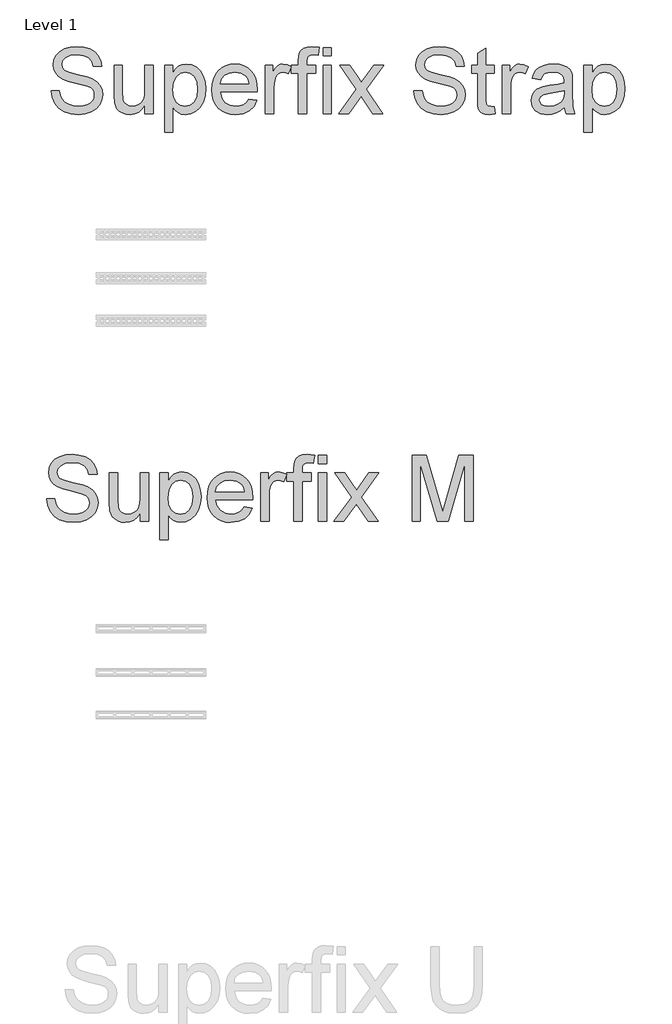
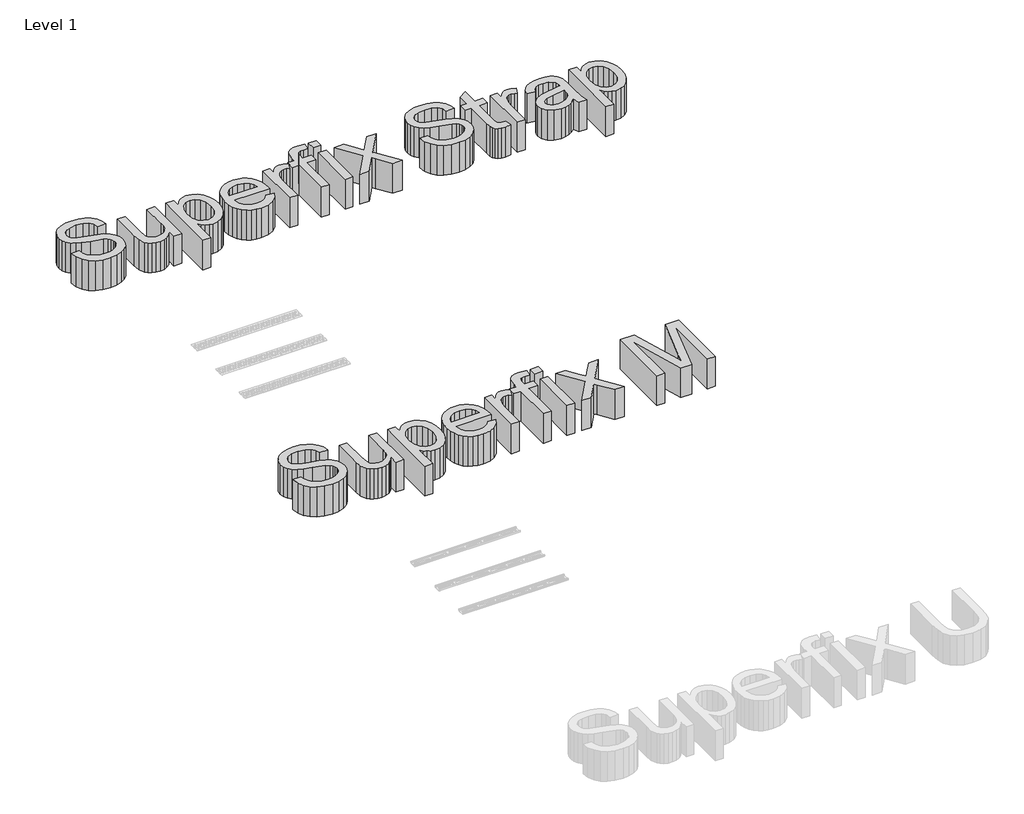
# One storey, part 26 of 32: 2 proxies.
"""IFC4 building model written with IfcOpenShell, lengths in millimetres."""

from ifc_helpers import new_model, si_unit, origin, origin_with_axes, place, context, project, spatial, polyline, outline, extrude, element, save

model = new_model("IFC4")

# Units and contexts
model_context = context("Model", 3, world=origin())
ifc_project = project(units=[si_unit("LENGTHUNIT", "METRE", prefix="MILLI")], contexts=[model_context])

# Site, building, storey
site = spatial("IfcSite", under=ifc_project)
building = spatial("IfcBuilding", under=site)
storey = spatial("IfcBuildingStorey", under=building, Name="Level 1", Elevation=0.0)

# Proxies
placement = place(None, origin())
element("IfcBuildingElementProxy", 1, Name="300mm Arial 2", ObjectType="300mm Arial 2", at=placement, inside=storey, context=model_context, shape_type="SweptSolid", body=[
    extrude(outline(polyline([(-40516.4132217, 29197.4580149), (-40478.7421054, 29197.4580149), (-40474.419492, 29176.5531205), (-40466.6019996, 29159.7501104), (-40454.4067115, 29146.414388), (-40436.9507108, 29135.9113571), (-40415.6135551, 29129.0963431), (-40391.7748018, 29126.8246718), (-40370.787134, 29128.5445201), (-40352.4114283, 29133.7040651), (-40337.5214045, 29141.8710454), (-40326.9907824, 29152.6131997), (-40320.7275915, 29164.9464436), (-40318.6398611, 29177.8866927), (-40320.2033596, 29190.4958481), (-40324.8938551, 29201.3943522), (-40334.4219987, 29210.6925697), (-40350.4984419, 29218.500865), (-40405.3496474, 29232.885051), (-40441.3560977, 29242.4039976), (-40464.3947076, 29251.4630918), (-40483.1474923, 29264.1366265), (-40496.4372294, 29279.4956998), (-40504.3558894, 29297.2092179), (-40506.9954427, 29316.9460869), (-40503.73049, 29339.0098096), (-40493.9356318, 29359.5836102), (-40477.8683857, 29377.0212167), (-40455.7862689, 29389.6763574), (-40429.2803712, 29397.3742881), (-40399.9417821, 29399.940265), (-40368.1567777, 29397.2547265), (-40340.3448989, 29389.1981108), (-40317.499427, 29375.9359648), (-40300.6136434, 29357.6338356), (-40289.9266714, 29335.4321572), (-40285.6776344, 29310.4713638), (-40323.3487507, 29310.4713638), (-40330.2649322, 29332.9489537), (-40344.6859064, 29349.1725497), (-40367.2186786, 29358.994999), (-40398.4702541, 29362.2691487), (-40430.4575936, 29359.0317872), (-40452.4017546, 29349.3197025), (-40465.0936834, 29335.027487), (-40469.3243264, 29318.0497329), (-40466.3260881, 29303.5735764), (-40457.3313733, 29291.9301112), (-40436.067794, 29281.5190508), (-40395.8215037, 29270.8872611), (-40354.2876265, 29260.7889003), (-40329.1612862, 29251.9781266), (-40307.6861747, 29238.3113104), (-40292.7041805, 29221.443921), (-40283.9026037, 29201.5598991), (-40280.9687448, 29178.8431859), (-40284.3440621, 29155.620635), (-40294.4700141, 29133.7776415), (-40310.9327333, 29114.9788716), (-40333.3183527, 29100.8889911), (-40360.2381177, 29092.0874144), (-40390.3032738, 29089.1535555), (-40427.211035, 29092.3173407), (-40457.5888907, 29101.8086961), (-40481.786329, 29117.6644101), (-40500.1528376, 29139.9212708), (-40511.9434555, 29167.0341739), (-40516.4132217, 29197.4580149)])), origin_with_axes(), (0.0, 0.0, 1.0), 150.0),
    extrude(outline(polyline([(-40087.9042738, 29093.862445), (-40087.9042738, 29131.9014433), (-40101.5343017, 29113.1992424), (-40117.4084098, 29099.8405275), (-40135.526598, 29091.8252985), (-40155.8888665, 29089.1535555), (-40174.236981, 29091.0297537), (-40191.3159026, 29096.6583482), (-40205.6449063, 29105.1196341), (-40215.7432671, 29115.4939064), (-40226.9636679, 29143.2322088), (-40229.1709599, 29178.2545747), (-40229.1709599, 29315.1802533), (-40191.4998436, 29315.1802533), (-40191.4998436, 29195.9864869), (-40189.2189752, 29157.5796066), (-40183.7283365, 29144.7681161), (-40174.3197544, 29135.0284403), (-40161.6186285, 29128.8756139), (-40146.2503582, 29126.8246718), (-40129.9991711, 29128.9215992), (-40114.7964476, 29135.2123813), (-40102.2608686, 29145.117604), (-40094.0111149, 29158.0578532), (-40089.430984, 29175.7805683), (-40087.9042738, 29200.0331888), (-40087.9042738, 29315.1802533), (-40050.2331575, 29315.1802533), (-40050.2331575, 29093.862445), (-40087.9042738, 29093.862445)])), origin_with_axes(), (0.0, 0.0, 1.0), 150.0),
    extrude(outline(polyline([(-39998.4353725, 29009.1024333), (-39998.4353725, 29315.1802533), (-39960.7642562, 29315.1802533), (-39960.7642562, 29278.244901), (-39948.4769976, 29296.4642568), (-39934.718211, 29309.4780824), (-39918.678556, 29317.2863778), (-39899.5486922, 29319.8891429), (-39874.0728641, 29316.2471111), (-39851.7976093, 29305.3210159), (-39833.6610269, 29287.7730447), (-39820.6012161, 29264.2653852), (-39812.7101473, 29236.5086887), (-39810.079791, 29206.2136064), (-39813.0504381, 29173.9963406), (-39821.9623795, 29145.1819834), (-39836.5305065, 29121.2328655), (-39856.4697106, 29103.6113179), (-39879.6922615, 29092.7679961), (-39904.110429, 29089.1535555), (-39921.4284739, 29091.5723796), (-39936.8887147, 29098.828852), (-39950.1232695, 29109.7825384), (-39960.7642562, 29123.2930047), (-39960.7642562, 29009.1024333), (-39998.4353725, 29009.1024333)]), holes=[polyline([(-39960.7642562, 29202.7555156), (-39956.6899631, 29168.9839485), (-39944.4670838, 29145.3659244), (-39926.431669, 29131.4599849), (-39904.9197694, 29126.8246718), (-39883.0583818, 29131.6255318), (-39864.5631145, 29146.028112), (-39851.9539591, 29170.5106587), (-39847.7509073, 29205.5514188), (-39851.8527916, 29239.1390449), (-39864.1584443, 29263.0881628), (-39882.166268, 29277.4355606), (-39903.374665, 29282.2180266), (-39924.6658355, 29277.132058), (-39943.3634379, 29261.8741522), (-39956.4140516, 29236.9225559), (-39960.7642562, 29202.7555156)])]), origin_with_axes(), (0.0, 0.0, 1.0), 150.0),
    extrude(outline(polyline([(-39612.7478888, 29159.7868986), (-39575.8125365, 29155.078009), (-39589.1206677, 29127.2477361), (-39610.3566558, 29106.4440093), (-39639.0422544, 29093.4761689), (-39674.6992168, 29089.1535555), (-39698.0735191, 29091.0182574), (-39718.9002385, 29096.6123629), (-39737.1793751, 29105.9358723), (-39752.910929, 29118.9887853), (-39765.5614711, 29135.4078186), (-39774.5975726, 29154.8296887), (-39780.0192335, 29177.2543956), (-39781.8264538, 29202.6819392), (-39780.0008394, 29228.9717063), (-39774.5239962, 29252.1436735), (-39765.3959242, 29272.1978407), (-39752.6166234, 29289.1342081), (-39736.9264563, 29302.589492), (-39719.0657854, 29312.2004092), (-39699.0346108, 29317.9669594), (-39676.8329324, 29319.8891429), (-39655.3463246, 29317.971558), (-39635.9152574, 29312.2188033), (-39618.539731, 29302.6308788), (-39603.2197451, 29289.2077845), (-39590.7140565, 29272.3082053), (-39581.7814218, 29252.2908263), (-39576.421841, 29229.1556473), (-39574.6353141, 29202.9026684), (-39574.8560433, 29192.7491253), (-39744.1553375, 29192.7491253), (-39737.6346291, 29164.5509704), (-39722.487088, 29143.82082), (-39700.6257004, 29131.0737088), (-39673.9634528, 29126.8246718), (-39653.9138841, 29128.7928405), (-39637.0281005, 29134.6973465), (-39623.3061021, 29144.9060719), (-39612.7478888, 29159.7868986)]), holes=[polyline([(-39744.1553375, 29230.4202416), (-39612.3064304, 29230.4202416), (-39617.401596, 29250.3226576), (-39627.3895922, 29264.5596908), (-39649.3521473, 29277.8034426), (-39676.9800852, 29282.2180266), (-39702.3731399, 29278.6955565), (-39723.3700047, 29268.1281462), (-39737.9657229, 29251.6562298), (-39744.1553375, 29230.4202416)])]), origin_with_axes(), (0.0, 0.0, 1.0), 150.0),
    extrude(outline(polyline([(-39536.9641978, 29093.862445), (-39536.9641978, 29315.1802533), (-39504.001971, 29315.1802533), (-39504.001971, 29282.4387558), (-39491.825077, 29301.4214667), (-39480.6046761, 29312.6050794), (-39469.3474871, 29318.068127), (-39457.0602284, 29319.8891429), (-39438.2982467, 29316.9828751), (-39419.2419593, 29308.2640718), (-39431.8235236, 29274.4925047), (-39445.0672754, 29280.2866461), (-39458.3110272, 29282.2180266), (-39469.5590192, 29280.3602225), (-39479.6113947, 29274.7868103), (-39487.7323898, 29265.9208542), (-39493.1862404, 29254.1854185), (-39497.7663712, 29233.1425684), (-39499.2930815, 29210.1867319), (-39499.2930815, 29093.862445), (-39536.9641978, 29093.862445)])), origin_with_axes(), (0.0, 0.0, 1.0), 150.0),
    extrude(outline(polyline([(-39386.2797326, 29093.862445), (-39386.2797326, 29277.509137), (-39419.2419593, 29277.509137), (-39419.2419593, 29315.1802533), (-39386.2797326, 29315.1802533), (-39386.2797326, 29337.4739022), (-39382.306607, 29368.8910246), (-39374.7282379, 29381.4174066), (-39363.0295905, 29391.3318263), (-39346.6588417, 29397.7881554), (-39325.0641686, 29399.940265), (-39290.7039902, 29395.8199867), (-39296.2222201, 29360.5033151), (-39317.9272579, 29362.2691487), (-39332.2470645, 29360.7056502), (-39341.6556465, 29356.0151548), (-39346.8703738, 29347.0572282), (-39348.6086163, 29332.6914363), (-39348.6086163, 29315.1802533), (-39306.2286104, 29315.1802533), (-39306.2286104, 29277.509137), (-39348.6086163, 29277.509137), (-39348.6086163, 29093.862445), (-39386.2797326, 29093.862445)])), origin_with_axes(), (0.0, 0.0, 1.0), 150.0),
    extrude(outline(polyline([(-39273.2663836, 29093.862445), (-39273.2663836, 29315.1802533), (-39235.5952673, 29315.1802533), (-39235.5952673, 29093.862445), (-39273.2663836, 29093.862445)])), origin_with_axes(), (0.0, 0.0, 1.0), 150.0),
    extrude(outline(polyline([(-39273.2663836, 29357.5602592), (-39273.2663836, 29395.2313755), (-39235.5952673, 29395.2313755), (-39235.5952673, 29357.5602592), (-39273.2663836, 29357.5602592)])), origin_with_axes(), (0.0, 0.0, 1.0), 150.0),
    extrude(outline(polyline([(-39202.6330406, 29093.862445), (-39122.14046, 29205.1099604), (-39197.924151, 29315.1802533), (-39152.6010892, 29315.1802533), (-39116.0336189, 29262.205246), (-39098.9638943, 29237.1892704), (-39084.1750381, 29257.6435093), (-39042.5307963, 29315.1802533), (-38997.2077345, 29315.1802533), (-39076.8173982, 29205.1099604), (-39000.1507904, 29093.862445), (-39045.4738522, 29093.862445), (-39091.6062544, 29160.7433918), (-39100.0675403, 29172.957074), (-39157.3099788, 29093.862445), (-39202.6330406, 29093.862445)])), origin_with_axes(), (0.0, 0.0, 1.0), 150.0),
    extrude(outline(polyline([(-38858.8841043, 29197.4580149), (-38821.212988, 29197.4580149), (-38816.8903745, 29176.5531205), (-38809.0728821, 29159.7501104), (-38796.877594, 29146.414388), (-38779.4215933, 29135.9113571), (-38758.0844376, 29129.0963431), (-38734.2456843, 29126.8246718), (-38713.2580165, 29128.5445201), (-38694.8823108, 29133.7040651), (-38679.9922871, 29141.8710454), (-38669.461665, 29152.6131997), (-38663.198474, 29164.9464436), (-38661.1107437, 29177.8866927), (-38662.6742422, 29190.4958481), (-38667.3647376, 29201.3943522), (-38676.8928813, 29210.6925697), (-38692.9693245, 29218.500865), (-38747.8205299, 29232.885051), (-38783.8269802, 29242.4039976), (-38806.8655902, 29251.4630918), (-38825.6183749, 29264.1366265), (-38838.9081119, 29279.4956998), (-38846.8267719, 29297.2092179), (-38849.4663252, 29316.9460869), (-38846.2013725, 29339.0098096), (-38836.4065144, 29359.5836102), (-38820.3392682, 29377.0212167), (-38798.2571515, 29389.6763574), (-38771.7512537, 29397.3742881), (-38742.4126646, 29399.940265), (-38710.6276602, 29397.2547265), (-38682.8157814, 29389.1981108), (-38659.9703095, 29375.9359648), (-38643.0845259, 29357.6338356), (-38632.3975539, 29335.4321572), (-38628.1485169, 29310.4713638), (-38665.8196332, 29310.4713638), (-38672.7358147, 29332.9489537), (-38687.1567889, 29349.1725497), (-38709.6895611, 29358.994999), (-38740.9411366, 29362.2691487), (-38772.9284761, 29359.0317872), (-38794.8726371, 29349.3197025), (-38807.564566, 29335.027487), (-38811.7952089, 29318.0497329), (-38808.7969706, 29303.5735764), (-38799.8022559, 29291.9301112), (-38778.5386765, 29281.5190508), (-38738.2923863, 29270.8872611), (-38696.758509, 29260.7889003), (-38671.6321687, 29251.9781266), (-38650.1570573, 29238.3113104), (-38635.175063, 29221.443921), (-38626.3734863, 29201.5598991), (-38623.4396274, 29178.8431859), (-38626.8149447, 29155.620635), (-38636.9408966, 29133.7776415), (-38653.4036159, 29114.9788716), (-38675.7892353, 29100.8889911), (-38702.7090003, 29092.0874144), (-38732.7741563, 29089.1535555), (-38769.6819175, 29092.3173407), (-38800.0597732, 29101.8086961), (-38824.2572115, 29117.6644101), (-38842.6237201, 29139.9212708), (-38854.414338, 29167.0341739), (-38858.8841043, 29197.4580149)])), origin_with_axes(), (0.0, 0.0, 1.0), 150.0),
    extrude(outline(polyline([(-38491.5907203, 29125.2795674), (-38486.8818308, 29092.7587991), (-38515.0615916, 29089.1535555), (-38533.1429916, 29090.717054), (-38546.6258668, 29095.4075494), (-38556.1540104, 29102.6364306), (-38562.3712162, 29111.8150864), (-38565.7925187, 29127.5788299), (-38566.9329529, 29154.5629742), (-38566.9329529, 29277.509137), (-38595.1862901, 29277.509137), (-38595.1862901, 29315.1802533), (-38566.9329529, 29315.1802533), (-38566.9329529, 29368.964601), (-38529.2618366, 29391.1110971), (-38529.2618366, 29315.1802533), (-38491.5907203, 29315.1802533), (-38491.5907203, 29277.509137), (-38529.2618366, 29277.509137), (-38529.2618366, 29155.6666202), (-38527.2752738, 29136.2424509), (-38520.8373389, 29129.3630576), (-38507.9982573, 29126.8246718), (-38491.5907203, 29125.2795674)])), origin_with_axes(), (0.0, 0.0, 1.0), 150.0),
    extrude(outline(polyline([(-38453.919604, 29093.862445), (-38453.919604, 29315.1802533), (-38420.9573772, 29315.1802533), (-38420.9573772, 29282.4387558), (-38408.7804832, 29301.4214667), (-38397.5600823, 29312.6050794), (-38386.3028933, 29318.068127), (-38374.0156346, 29319.8891429), (-38355.2536529, 29316.9828751), (-38336.1973655, 29308.2640718), (-38348.7789298, 29274.4925047), (-38362.0226816, 29280.2866461), (-38375.2664334, 29282.2180266), (-38386.5144254, 29280.3602225), (-38396.5668009, 29274.7868103), (-38404.687796, 29265.9208542), (-38410.1416466, 29254.1854185), (-38414.7217774, 29233.1425684), (-38416.2484877, 29210.1867319), (-38416.2484877, 29093.862445), (-38453.919604, 29093.862445)])), origin_with_axes(), (0.0, 0.0, 1.0), 150.0),
    extrude(outline(polyline([(-38171.3862317, 29122.1157823), (-38189.3848583, 29106.6831326), (-38207.9169138, 29096.5847718), (-38227.4054625, 29091.0113596), (-38248.2735687, 29089.1535555), (-38279.7550704, 29093.6233217), (-38302.9776214, 29107.0326205), (-38317.297428, 29127.3948889), (-38322.0706969, 29152.7235643), (-38320.2680751, 29168.340155), (-38314.8602098, 29182.5220059), (-38306.5184856, 29194.6621117), (-38295.9142871, 29204.1534672), (-38269.537148, 29216.5143022), (-38236.9428032, 29222.179685), (-38198.4255583, 29228.1393733), (-38171.6069609, 29235.1291312), (-38171.3862317, 29243.5168407), (-38173.9797998, 29260.3290479), (-38181.760504, 29271.3287195), (-38199.1613223, 29279.4956998), (-38223.4047458, 29282.2180266), (-38245.8455475, 29280.4062077), (-38261.5173205, 29274.9707513), (-38272.2042925, 29264.9183757), (-38279.6906911, 29249.2557998), (-38317.3618074, 29253.9646893), (-38310.8227049, 29274.5660811), (-38301.064635, 29290.7528889), (-38287.1770897, 29303.132118), (-38268.249561, 29312.3107738), (-38245.1005865, 29317.9945506), (-38218.5487035, 29319.8891429), (-38193.0820724, 29318.2152798), (-38172.8945479, 29313.1936906), (-38157.6734303, 29305.6429126), (-38147.10602, 29296.3814834), (-38140.097868, 29284.9311563), (-38135.5545254, 29270.8136847), (-38133.7151154, 29237.8514579), (-38133.7151154, 29190.9832918), (-38131.802129, 29125.5370848), (-38124.2973363, 29093.862445), (-38161.9684526, 29093.862445), (-38171.3862317, 29122.1157823)]), holes=[polyline([(-38171.3862317, 29197.4580149), (-38232.1603373, 29185.9065202), (-38264.5707411, 29179.7996791), (-38279.2492327, 29169.8668652), (-38284.3995806, 29155.3723146), (-38281.5944804, 29144.1703079), (-38273.1791798, 29134.9916521), (-38259.3376197, 29128.8664169), (-38240.2537412, 29126.8246718), (-38220.0202315, 29129.077949), (-38202.1411665, 29135.8377807), (-38187.6466159, 29145.7981857), (-38177.5666492, 29157.653183), (-38173.096883, 29169.8668652), (-38171.6069609, 29186.789437), (-38171.3862317, 29197.4580149)])]), origin_with_axes(), (0.0, 0.0, 1.0), 150.0),
    extrude(outline(polyline([(-38081.9173305, 29009.1024333), (-38081.9173305, 29315.1802533), (-38044.2462142, 29315.1802533), (-38044.2462142, 29278.244901), (-38031.9589555, 29296.4642568), (-38018.2001689, 29309.4780824), (-38002.1605139, 29317.2863778), (-37983.0306502, 29319.8891429), (-37957.554822, 29316.2471111), (-37935.2795672, 29305.3210159), (-37917.1429848, 29287.7730447), (-37904.083174, 29264.2653852), (-37896.1921052, 29236.5086887), (-37893.5617489, 29206.2136064), (-37896.532396, 29173.9963406), (-37905.4443374, 29145.1819834), (-37920.0124644, 29121.2328655), (-37939.9516685, 29103.6113179), (-37963.1742195, 29092.7679961), (-37987.5923869, 29089.1535555), (-38004.9104318, 29091.5723796), (-38020.3706727, 29098.828852), (-38033.6052274, 29109.7825384), (-38044.2462142, 29123.2930047), (-38044.2462142, 29009.1024333), (-38081.9173305, 29009.1024333)]), holes=[polyline([(-38044.2462142, 29202.7555156), (-38040.1719211, 29168.9839485), (-38027.9490418, 29145.3659244), (-38009.913627, 29131.4599849), (-37988.4017273, 29126.8246718), (-37966.5403397, 29131.6255318), (-37948.0450724, 29146.028112), (-37935.435917, 29170.5106587), (-37931.2328652, 29205.5514188), (-37935.3347495, 29239.1390449), (-37947.6404022, 29263.0881628), (-37965.6482259, 29277.4355606), (-37986.8566229, 29282.2180266), (-38008.1477934, 29277.132058), (-38026.8453958, 29261.8741522), (-38039.8960096, 29236.9225559), (-38044.2462142, 29202.7555156)])]), origin_with_axes(), (0.0, 0.0, 1.0), 150.0),
])
element("IfcBuildingElementProxy", 2, Name="300mm Arial 2", ObjectType="300mm Arial 2", at=placement, inside=storey, context=model_context, shape_type="SweptSolid", body=[
    extrude(outline(polyline([(-40537.7728873, 27332.8843046), (-40500.101771, 27332.8843046), (-40495.7791575, 27311.9794102), (-40487.9616651, 27295.1764001), (-40475.766377, 27281.8406777), (-40458.3103763, 27271.3376468), (-40436.9732206, 27264.5226328), (-40413.1344673, 27262.2509615), (-40392.1467995, 27263.9708098), (-40373.7710938, 27269.1303548), (-40358.8810701, 27277.2973351), (-40348.350448, 27288.0394893), (-40342.087257, 27300.3727332), (-40339.9995267, 27313.3129824), (-40341.5630252, 27325.9221378), (-40346.2535206, 27336.8206419), (-40355.7816643, 27346.1188593), (-40371.8581075, 27353.9271547), (-40426.7093129, 27368.3113407), (-40462.7157632, 27377.8302873), (-40485.7543732, 27386.8893815), (-40504.5071579, 27399.5629162), (-40517.7968949, 27414.9219895), (-40525.7155549, 27432.6355076), (-40528.3551082, 27452.3723766), (-40525.0901555, 27474.4360993), (-40515.2952974, 27495.0098998), (-40499.2280512, 27512.4475064), (-40477.1459345, 27525.102647), (-40450.6400367, 27532.8005778), (-40421.3014476, 27535.3665547), (-40389.5164432, 27532.6810161), (-40361.7045644, 27524.6244004), (-40338.8590925, 27511.3622545), (-40321.9733089, 27493.0601253), (-40311.2863369, 27470.8584469), (-40307.0372999, 27445.8976535), (-40344.7084162, 27445.8976535), (-40351.6245977, 27468.3752434), (-40366.0455719, 27484.5988394), (-40388.5783441, 27494.4212886), (-40419.8299196, 27497.6954384), (-40451.8172591, 27494.4580768), (-40473.7614201, 27484.7459922), (-40486.453349, 27470.4537767), (-40490.6839919, 27453.4760226), (-40487.6857536, 27438.9998661), (-40478.6910389, 27427.3564009), (-40457.4274595, 27416.9453405), (-40417.1811693, 27406.3135508), (-40375.647292, 27396.21519), (-40350.5209517, 27387.4044162), (-40329.0458403, 27373.7376001), (-40314.063846, 27356.8702106), (-40305.2622693, 27336.9861888), (-40302.3284104, 27314.2694756), (-40305.7037277, 27291.0469247), (-40315.8296796, 27269.2039312), (-40332.2923989, 27250.4051612), (-40354.6780183, 27236.3152808), (-40381.5977833, 27227.5137041), (-40411.6629393, 27224.5798452), (-40448.5707005, 27227.7436303), (-40478.9485563, 27237.2349858), (-40503.1459945, 27253.0906998), (-40521.5125031, 27275.3475605), (-40533.303121, 27302.4604636), (-40537.7728873, 27332.8843046)])), origin_with_axes(), (0.0, 0.0, 1.0), 150.0),
    extrude(outline(polyline([(-40109.2639393, 27229.2887347), (-40109.2639393, 27267.327733), (-40122.8939672, 27248.6255321), (-40138.7680753, 27235.2668171), (-40156.8862636, 27227.2515882), (-40177.248532, 27224.5798452), (-40195.5966465, 27226.4560434), (-40212.6755681, 27232.0846379), (-40227.0045719, 27240.5459238), (-40237.1029326, 27250.920196), (-40248.3233335, 27278.6584985), (-40250.5306254, 27313.6808644), (-40250.5306254, 27450.606543), (-40212.8595091, 27450.606543), (-40212.8595091, 27331.4127766), (-40210.5786408, 27293.0058963), (-40205.088002, 27280.1944058), (-40195.67942, 27270.45473), (-40182.9782941, 27264.3019036), (-40167.6100237, 27262.2509615), (-40151.3588366, 27264.3478889), (-40136.1561131, 27270.638671), (-40123.6205342, 27280.5438937), (-40115.3707804, 27293.4841429), (-40110.7906496, 27311.206858), (-40109.2639393, 27335.4594785), (-40109.2639393, 27450.606543), (-40071.592823, 27450.606543), (-40071.592823, 27229.2887347), (-40109.2639393, 27229.2887347)])), origin_with_axes(), (0.0, 0.0, 1.0), 150.0),
    extrude(outline(polyline([(-40019.7950381, 27144.528723), (-40019.7950381, 27450.606543), (-39982.1239218, 27450.606543), (-39982.1239218, 27413.6711907), (-39969.8366631, 27431.8905465), (-39956.0778765, 27444.9043721), (-39940.0382215, 27452.7126674), (-39920.9083578, 27455.3154326), (-39895.4325296, 27451.6734008), (-39873.1572748, 27440.7473055), (-39855.0206924, 27423.1993344), (-39841.9608816, 27399.6916749), (-39834.0698128, 27371.9349783), (-39831.4394565, 27341.639896), (-39834.4101037, 27309.4226303), (-39843.322045, 27280.608273), (-39857.890172, 27256.6591552), (-39877.8293761, 27239.0376076), (-39901.0519271, 27228.1942858), (-39925.4700945, 27224.5798452), (-39942.7881394, 27226.9986693), (-39958.2483803, 27234.2551417), (-39971.4829351, 27245.2088281), (-39982.1239218, 27258.7192943), (-39982.1239218, 27144.528723), (-40019.7950381, 27144.528723)]), holes=[polyline([(-39982.1239218, 27338.1818053), (-39978.0496287, 27304.4102381), (-39965.8267494, 27280.792214), (-39947.7913346, 27266.8862746), (-39926.2794349, 27262.2509615), (-39904.4180473, 27267.0518215), (-39885.92278, 27281.4544016), (-39873.3136246, 27305.9369484), (-39869.1105728, 27340.9777085), (-39873.2124571, 27374.5653346), (-39885.5181098, 27398.5144525), (-39903.5259335, 27412.8618503), (-39924.7343305, 27417.6443162), (-39946.025501, 27412.5583477), (-39964.7231034, 27397.3004419), (-39977.7737172, 27372.3488456), (-39982.1239218, 27338.1818053)])]), origin_with_axes(), (0.0, 0.0, 1.0), 150.0),
    extrude(outline(polyline([(-39634.1075543, 27295.2131883), (-39597.172202, 27290.5042987), (-39610.4803332, 27262.6740258), (-39631.7163214, 27241.870299), (-39660.4019199, 27228.9024586), (-39696.0588823, 27224.5798452), (-39719.4331846, 27226.444547), (-39740.259904, 27232.0386526), (-39758.5390407, 27241.3621619), (-39774.2705945, 27254.415075), (-39786.9211366, 27270.8341083), (-39795.9572381, 27290.2559784), (-39801.378899, 27312.6806852), (-39803.1861193, 27338.1082289), (-39801.3605049, 27364.397996), (-39795.8836617, 27387.5699631), (-39786.7555897, 27407.6241304), (-39773.9762889, 27424.5604978), (-39758.2861218, 27438.0157817), (-39740.4254509, 27447.6266989), (-39720.3942763, 27453.3932491), (-39698.1925979, 27455.3154326), (-39676.7059901, 27453.3978477), (-39657.274923, 27447.645093), (-39639.8993965, 27438.0571685), (-39624.5794107, 27424.6340742), (-39612.0737221, 27407.734495), (-39603.1410874, 27387.7171159), (-39597.7815066, 27364.581937), (-39595.9949796, 27338.3289581), (-39596.2157088, 27328.175415), (-39765.515003, 27328.175415), (-39758.9942946, 27299.9772601), (-39743.8467535, 27279.2471097), (-39721.9853659, 27266.4999985), (-39695.3231183, 27262.2509615), (-39675.2735496, 27264.2191302), (-39658.387766, 27270.1236362), (-39644.6657676, 27280.3323615), (-39634.1075543, 27295.2131883)]), holes=[polyline([(-39765.515003, 27365.8465313), (-39633.6660959, 27365.8465313), (-39638.7612616, 27385.7489473), (-39648.7492577, 27399.9859805), (-39670.7118128, 27413.2297323), (-39698.3397507, 27417.6443162), (-39723.7328054, 27414.1218461), (-39744.7296703, 27403.5544358), (-39759.3253884, 27387.0825195), (-39765.515003, 27365.8465313)])]), origin_with_axes(), (0.0, 0.0, 1.0), 150.0),
    extrude(outline(polyline([(-39558.3238633, 27229.2887347), (-39558.3238633, 27450.606543), (-39525.3616366, 27450.606543), (-39525.3616366, 27417.8650454), (-39513.1847425, 27436.8477564), (-39501.9643417, 27448.031369), (-39490.7071526, 27453.4944167), (-39478.419894, 27455.3154326), (-39459.6579122, 27452.4091648), (-39440.6016249, 27443.6903615), (-39453.1831891, 27409.9187943), (-39466.4269409, 27415.7129358), (-39479.6706928, 27417.6443162), (-39490.9186848, 27415.7865122), (-39500.9710603, 27410.2130999), (-39509.0920553, 27401.3471439), (-39514.5459059, 27389.6117082), (-39519.1260367, 27368.5688581), (-39520.652747, 27345.6130216), (-39520.652747, 27229.2887347), (-39558.3238633, 27229.2887347)])), origin_with_axes(), (0.0, 0.0, 1.0), 150.0),
    extrude(outline(polyline([(-39407.6393981, 27229.2887347), (-39407.6393981, 27412.9354267), (-39440.6016249, 27412.9354267), (-39440.6016249, 27450.606543), (-39407.6393981, 27450.606543), (-39407.6393981, 27472.9001919), (-39403.6662725, 27504.3173143), (-39396.0879034, 27516.8436962), (-39384.389256, 27526.758116), (-39368.0185072, 27533.214445), (-39346.4238341, 27535.3665547), (-39312.0636557, 27531.2462764), (-39317.5818857, 27495.9296048), (-39339.2869234, 27497.6954384), (-39353.6067301, 27496.1319399), (-39363.0153121, 27491.4414445), (-39368.2300394, 27482.4835179), (-39369.9682818, 27468.117726), (-39369.9682818, 27450.606543), (-39327.5882759, 27450.606543), (-39327.5882759, 27412.9354267), (-39369.9682818, 27412.9354267), (-39369.9682818, 27229.2887347), (-39407.6393981, 27229.2887347)])), origin_with_axes(), (0.0, 0.0, 1.0), 150.0),
    extrude(outline(polyline([(-39294.6260492, 27229.2887347), (-39294.6260492, 27450.606543), (-39256.9549329, 27450.606543), (-39256.9549329, 27229.2887347), (-39294.6260492, 27229.2887347)])), origin_with_axes(), (0.0, 0.0, 1.0), 150.0),
    extrude(outline(polyline([(-39294.6260492, 27492.9865489), (-39294.6260492, 27530.6576652), (-39256.9549329, 27530.6576652), (-39256.9549329, 27492.9865489), (-39294.6260492, 27492.9865489)])), origin_with_axes(), (0.0, 0.0, 1.0), 150.0),
    extrude(outline(polyline([(-39223.9927061, 27229.2887347), (-39143.5001256, 27340.5362501), (-39219.2838166, 27450.606543), (-39173.9607548, 27450.606543), (-39137.3932844, 27397.6315357), (-39120.3235599, 27372.61556), (-39105.5347037, 27393.069799), (-39063.8904618, 27450.606543), (-39018.5674, 27450.606543), (-39098.1770638, 27340.5362501), (-39021.510456, 27229.2887347), (-39066.8335178, 27229.2887347), (-39112.96592, 27296.1696814), (-39121.4272058, 27308.3833637), (-39178.6696443, 27229.2887347), (-39223.9927061, 27229.2887347)])), origin_with_axes(), (0.0, 0.0, 1.0), 150.0),
    extrude(outline(polyline([(-38866.1171012, 27229.2887347), (-38866.1171012, 27530.6576652), (-38801.2962936, 27530.6576652), (-38739.6392713, 27318.2426012), (-38727.2048598, 27273.8760325), (-38713.7403788, 27321.9214211), (-38653.113426, 27530.6576652), (-38588.2926184, 27530.6576652), (-38588.2926184, 27229.2887347), (-38625.9637347, 27229.2887347), (-38625.9637347, 27492.9865489), (-38701.6738494, 27229.2887347), (-38752.7358703, 27229.2887347), (-38828.4459849, 27492.9865489), (-38828.4459849, 27229.2887347), (-38866.1171012, 27229.2887347)])), origin_with_axes(), (0.0, 0.0, 1.0), 150.0),
])

save(model, "model.ifc")
